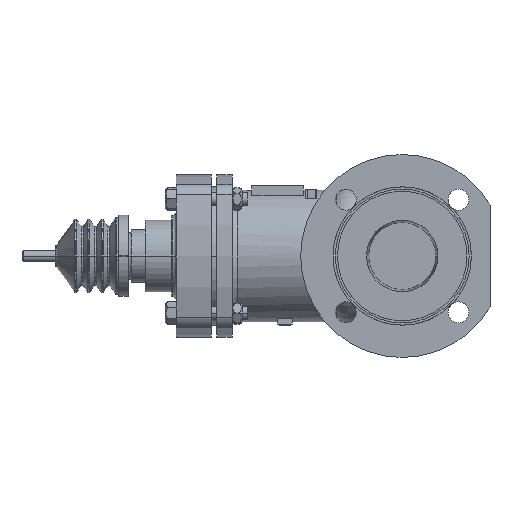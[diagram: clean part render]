
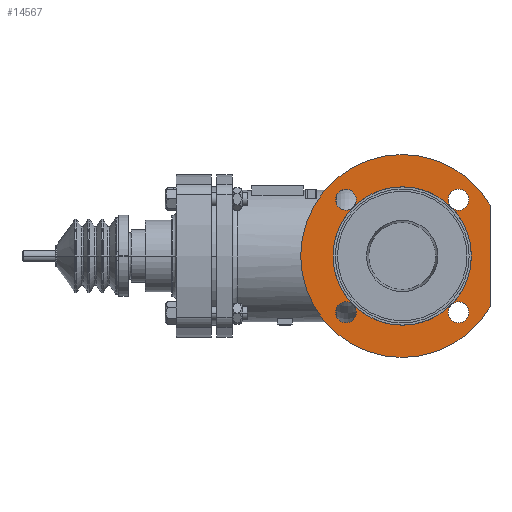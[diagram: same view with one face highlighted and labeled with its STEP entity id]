
A CAD part, left-side view. The second image highlights one B-rep face of the part: STEP entity #14567.
In plain terms, the highlighted planar face has unit normal (-1, 0, 0).
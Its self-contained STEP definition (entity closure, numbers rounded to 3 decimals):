
#3395=CARTESIAN_POINT('',(-121.,0.,0.));
#3396=DIRECTION('',(-1.,0.,0.));
#3397=DIRECTION('',(0.,-0.865,0.502));
#3398=AXIS2_PLACEMENT_3D('',#3395,#3396,#3397);
#3469=DIRECTION('',(0.,0.,1.));
#3470=VECTOR('',#3469,92.871);
#3471=CARTESIAN_POINT('',(-121.,-80.,-46.435));
#3472=LINE('',#3471,#3470);
#3473=CARTESIAN_POINT('',(-121.,-51.265,51.265));
#3474=DIRECTION('',(1.,0.,0.));
#3475=DIRECTION('',(0.,0.,1.));
#3476=AXIS2_PLACEMENT_3D('',#3473,#3474,#3475);
#3478=CARTESIAN_POINT('',(-121.,-51.265,51.265));
#3479=DIRECTION('',(1.,0.,0.));
#3480=DIRECTION('',(0.,0.707,-0.707));
#3481=AXIS2_PLACEMENT_3D('',#3478,#3479,#3480);
#3483=CARTESIAN_POINT('',(-121.,0.,0.));
#3484=DIRECTION('',(1.,0.,0.));
#3485=DIRECTION('',(0.,0.707,0.707));
#3486=AXIS2_PLACEMENT_3D('',#3483,#3484,#3485);
#3488=CARTESIAN_POINT('',(-121.,51.265,51.265));
#3489=DIRECTION('',(1.,0.,0.));
#3490=DIRECTION('',(0.,-1.,0.));
#3491=AXIS2_PLACEMENT_3D('',#3488,#3489,#3490);
#3493=CARTESIAN_POINT('',(-121.,51.265,51.265));
#3494=DIRECTION('',(1.,0.,0.));
#3495=DIRECTION('',(0.,1.,0.));
#3496=AXIS2_PLACEMENT_3D('',#3493,#3494,#3495);
#3498=CARTESIAN_POINT('',(-121.,51.265,51.265));
#3499=DIRECTION('',(1.,0.,0.));
#3500=DIRECTION('',(0.,-0.707,-0.707));
#3501=AXIS2_PLACEMENT_3D('',#3498,#3499,#3500);
#3503=CARTESIAN_POINT('',(-121.,0.,0.));
#3504=DIRECTION('',(1.,0.,0.));
#3505=DIRECTION('',(0.,1.,0.));
#3506=AXIS2_PLACEMENT_3D('',#3503,#3504,#3505);
#3508=CARTESIAN_POINT('',(-121.,0.,0.));
#3509=DIRECTION('',(-1.,0.,0.));
#3510=DIRECTION('',(0.,1.,0.));
#3511=AXIS2_PLACEMENT_3D('',#3508,#3509,#3510);
#3513=CARTESIAN_POINT('',(-121.,51.265,-51.265));
#3514=DIRECTION('',(1.,0.,0.));
#3515=DIRECTION('',(0.,0.,1.));
#3516=AXIS2_PLACEMENT_3D('',#3513,#3514,#3515);
#3518=CARTESIAN_POINT('',(-121.,51.265,-51.265));
#3519=DIRECTION('',(1.,0.,0.));
#3520=DIRECTION('',(0.,0.,-1.));
#3521=AXIS2_PLACEMENT_3D('',#3518,#3519,#3520);
#3523=CARTESIAN_POINT('',(-121.,51.265,-51.265));
#3524=DIRECTION('',(1.,0.,0.));
#3525=DIRECTION('',(0.,-0.707,0.707));
#3526=AXIS2_PLACEMENT_3D('',#3523,#3524,#3525);
#3528=CARTESIAN_POINT('',(-121.,0.,0.));
#3529=DIRECTION('',(-1.,0.,0.));
#3530=DIRECTION('',(0.,0.707,-0.707));
#3531=AXIS2_PLACEMENT_3D('',#3528,#3529,#3530);
#3533=CARTESIAN_POINT('',(-121.,-51.265,-51.265));
#3534=DIRECTION('',(1.,0.,0.));
#3535=DIRECTION('',(0.,1.,0.));
#3536=AXIS2_PLACEMENT_3D('',#3533,#3534,#3535);
#3538=CARTESIAN_POINT('',(-121.,-51.265,-51.265));
#3539=DIRECTION('',(1.,0.,0.));
#3540=DIRECTION('',(0.,-1.,0.));
#3541=AXIS2_PLACEMENT_3D('',#3538,#3539,#3540);
#3543=CARTESIAN_POINT('',(-121.,-51.265,-51.265));
#3544=DIRECTION('',(1.,0.,0.));
#3545=DIRECTION('',(0.,0.707,0.707));
#3546=AXIS2_PLACEMENT_3D('',#3543,#3544,#3545);
#3548=CARTESIAN_POINT('',(-121.,0.,0.));
#3549=DIRECTION('',(-1.,0.,0.));
#3550=DIRECTION('',(0.,-0.707,-0.707));
#3551=AXIS2_PLACEMENT_3D('',#3548,#3549,#3550);
#3553=CARTESIAN_POINT('',(-121.,0.,0.));
#3554=DIRECTION('',(1.,0.,0.));
#3555=DIRECTION('',(0.,-0.707,0.707));
#3556=AXIS2_PLACEMENT_3D('',#3553,#3554,#3555);
#3558=CARTESIAN_POINT('',(-121.,-51.265,51.265));
#3559=DIRECTION('',(1.,0.,0.));
#3560=DIRECTION('',(0.,0.,-1.));
#3561=AXIS2_PLACEMENT_3D('',#3558,#3559,#3560);
#8444=CARTESIAN_POINT('',(-121.,-80.,-46.435));
#8446=VERTEX_POINT('',#8444);
#8455=CARTESIAN_POINT('',(-121.,-80.,46.435));
#8456=VERTEX_POINT('',#8455);
#8525=CARTESIAN_POINT('',(-121.,60.765,51.265));
#8526=VERTEX_POINT('',#8525);
#8527=CARTESIAN_POINT('',(-121.,41.765,51.265));
#8528=VERTEX_POINT('',#8527);
#8533=CARTESIAN_POINT('',(-121.,51.265,-60.765));
#8534=VERTEX_POINT('',#8533);
#8535=CARTESIAN_POINT('',(-121.,51.265,-41.765));
#8536=VERTEX_POINT('',#8535);
#8541=CARTESIAN_POINT('',(-121.,-60.765,-51.265));
#8542=VERTEX_POINT('',#8541);
#8543=CARTESIAN_POINT('',(-121.,-41.765,-51.265));
#8544=VERTEX_POINT('',#8543);
#8549=CARTESIAN_POINT('',(-121.,-51.265,60.765));
#8550=VERTEX_POINT('',#8549);
#8551=CARTESIAN_POINT('',(-121.,-51.265,41.765));
#8552=VERTEX_POINT('',#8551);
#9138=CARTESIAN_POINT('',(-121.,63.,0.));
#9140=VERTEX_POINT('',#9138);
#9154=CARTESIAN_POINT('',(-121.,-63.,0.));
#9156=VERTEX_POINT('',#9154);
#9173=CARTESIAN_POINT('',(-121.,44.548,44.548));
#9174=VERTEX_POINT('',#9173);
#9175=CARTESIAN_POINT('',(-121.,44.548,-44.548));
#9176=VERTEX_POINT('',#9175);
#9177=CARTESIAN_POINT('',(-121.,-44.548,-44.548));
#9178=VERTEX_POINT('',#9177);
#9179=CARTESIAN_POINT('',(-121.,-44.548,44.548));
#9180=VERTEX_POINT('',#9179);
#14523=CARTESIAN_POINT('',(-121.,0.,0.));
#14524=DIRECTION('',(-1.,0.,0.));
#14525=DIRECTION('',(0.,-1.,0.));
#14526=AXIS2_PLACEMENT_3D('',#14523,#14524,#14525);
#14527=PLANE('',#14526);
#14528=ORIENTED_EDGE('',*,*,#14412,.F.);
#14529=ORIENTED_EDGE('',*,*,#14444,.F.);
#14530=EDGE_LOOP('',(#14528,#14529));
#14531=FACE_OUTER_BOUND('',#14530,.F.);
#14533=ORIENTED_EDGE('',*,*,#14532,.F.);
#14535=ORIENTED_EDGE('',*,*,#14534,.F.);
#14537=ORIENTED_EDGE('',*,*,#14536,.F.);
#14538=ORIENTED_EDGE('',*,*,#14515,.F.);
#14539=ORIENTED_EDGE('',*,*,#14501,.F.);
#14540=ORIENTED_EDGE('',*,*,#14517,.F.);
#14542=ORIENTED_EDGE('',*,*,#14541,.F.);
#14544=ORIENTED_EDGE('',*,*,#14543,.T.);
#14546=ORIENTED_EDGE('',*,*,#14545,.F.);
#14548=ORIENTED_EDGE('',*,*,#14547,.F.);
#14550=ORIENTED_EDGE('',*,*,#14549,.F.);
#14552=ORIENTED_EDGE('',*,*,#14551,.T.);
#14554=ORIENTED_EDGE('',*,*,#14553,.F.);
#14556=ORIENTED_EDGE('',*,*,#14555,.F.);
#14558=ORIENTED_EDGE('',*,*,#14557,.F.);
#14560=ORIENTED_EDGE('',*,*,#14559,.T.);
#14562=ORIENTED_EDGE('',*,*,#14561,.F.);
#14564=ORIENTED_EDGE('',*,*,#14563,.F.);
#14565=EDGE_LOOP('',(#14533,#14535,#14537,#14538,#14539,#14540,#14542,#14544,
#14546,#14548,#14550,#14552,#14554,#14556,#14558,#14560,#14562,#14564));
#14566=FACE_BOUND('',#14565,.F.);
#14567=ADVANCED_FACE('',(#14531,#14566),#14527,.T.);
#3399=CIRCLE('',#3398,92.5);
#3477=CIRCLE('',#3476,9.5);
#3482=CIRCLE('',#3481,9.5);
#3487=CIRCLE('',#3486,63.);
#3492=CIRCLE('',#3491,9.5);
#3497=CIRCLE('',#3496,9.5);
#3502=CIRCLE('',#3501,9.5);
#3507=CIRCLE('',#3506,63.);
#3512=CIRCLE('',#3511,63.);
#3517=CIRCLE('',#3516,9.5);
#3522=CIRCLE('',#3521,9.5);
#3527=CIRCLE('',#3526,9.5);
#3532=CIRCLE('',#3531,63.);
#3537=CIRCLE('',#3536,9.5);
#3542=CIRCLE('',#3541,9.5);
#3547=CIRCLE('',#3546,9.5);
#3552=CIRCLE('',#3551,63.);
#3557=CIRCLE('',#3556,63.);
#3562=CIRCLE('',#3561,9.5);
#14412=EDGE_CURVE('',#8446,#8456,#3472,.T.);
#14444=EDGE_CURVE('',#8456,#8446,#3399,.T.);
#14501=EDGE_CURVE('',#8526,#8528,#3497,.T.);
#14515=EDGE_CURVE('',#8528,#9174,#3492,.T.);
#14517=EDGE_CURVE('',#9174,#8526,#3502,.T.);
#14532=EDGE_CURVE('',#8550,#8552,#3477,.T.);
#14534=EDGE_CURVE('',#9180,#8550,#3482,.T.);
#14536=EDGE_CURVE('',#9174,#9180,#3487,.T.);
#14541=EDGE_CURVE('',#9140,#9174,#3507,.T.);
#14543=EDGE_CURVE('',#9140,#9176,#3512,.T.);
#14545=EDGE_CURVE('',#8536,#9176,#3517,.T.);
#14547=EDGE_CURVE('',#8534,#8536,#3522,.T.);
#14549=EDGE_CURVE('',#9176,#8534,#3527,.T.);
#14551=EDGE_CURVE('',#9176,#9178,#3532,.T.);
#14553=EDGE_CURVE('',#8544,#9178,#3537,.T.);
#14555=EDGE_CURVE('',#8542,#8544,#3542,.T.);
#14557=EDGE_CURVE('',#9178,#8542,#3547,.T.);
#14559=EDGE_CURVE('',#9178,#9156,#3552,.T.);
#14561=EDGE_CURVE('',#9180,#9156,#3557,.T.);
#14563=EDGE_CURVE('',#8552,#9180,#3562,.T.);
